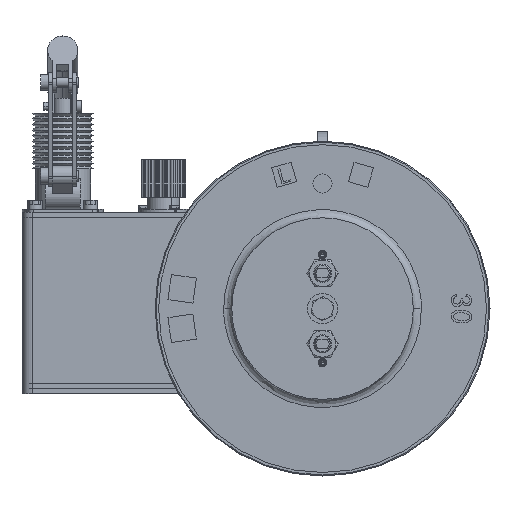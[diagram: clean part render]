
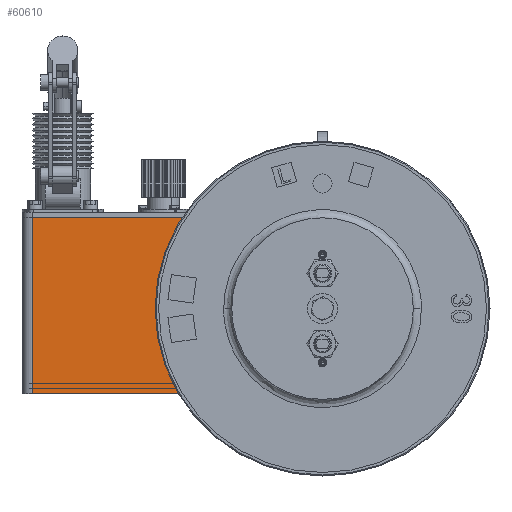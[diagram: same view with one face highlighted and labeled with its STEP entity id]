
A CAD part, left-side view. The second image highlights one B-rep face of the part: STEP entity #60610.
In plain terms, the highlighted planar face has unit normal (-1, 0, 0).
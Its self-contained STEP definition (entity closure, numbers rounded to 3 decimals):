
#1507 = EDGE_CURVE ( 'NONE', #24480, #10222, #30892, .T. ) ;
#3439 = ORIENTED_EDGE ( 'NONE', *, *, #1507, .F. ) ;
#4132 = DIRECTION ( 'NONE',  ( 0., 1., 0. ) ) ;
#8592 = ORIENTED_EDGE ( 'NONE', *, *, #83150, .T. ) ;
#9398 = CARTESIAN_POINT ( 'NONE',  ( -90., 310., 148. ) ) ;
#9759 = ORIENTED_EDGE ( 'NONE', *, *, #69935, .T. ) ;
#10222 = VERTEX_POINT ( 'NONE', #96198 ) ;
#14120 = CARTESIAN_POINT ( 'NONE',  ( -90., 150., 60.5 ) ) ;
#21177 = DIRECTION ( 'NONE',  ( 0., 0., -1. ) ) ;
#21942 = CARTESIAN_POINT ( 'NONE',  ( -90., 230., 148. ) ) ;
#24480 = VERTEX_POINT ( 'NONE', #43834 ) ;
#25530 = EDGE_LOOP ( 'NONE', ( #88544, #8592, #9759, #3439 ) ) ;
#30127 = LINE ( 'NONE', #21942, #89917 ) ;
#30632 = DIRECTION ( 'NONE',  ( 0., 1., 0. ) ) ;
#30892 = LINE ( 'NONE', #77718, #44686 ) ;
#41656 = VERTEX_POINT ( 'NONE', #48389 ) ;
#42873 = CARTESIAN_POINT ( 'NONE',  ( -90., 150., -27. ) ) ;
#43834 = CARTESIAN_POINT ( 'NONE',  ( -90., 150., -27. ) ) ;
#44686 = VECTOR ( 'NONE', #61951, 1000. ) ;
#47574 = LINE ( 'NONE', #14120, #61603 ) ;
#48389 = CARTESIAN_POINT ( 'NONE',  ( -90., 150., 148. ) ) ;
#52263 = CARTESIAN_POINT ( 'NONE',  ( -90., 310., 60.5 ) ) ;
#57995 = VERTEX_POINT ( 'NONE', #9398 ) ;
#60400 = LINE ( 'NONE', #52263, #69911 ) ;
#60610 = ADVANCED_FACE ( 'NONE', ( #74422 ), #75428, .F. ) ;
#61603 = VECTOR ( 'NONE', #76743, 1000. ) ;
#61951 = DIRECTION ( 'NONE',  ( 0., 1., 0. ) ) ;
#65997 = EDGE_CURVE ( 'NONE', #41656, #24480, #47574, .T. ) ;
#69911 = VECTOR ( 'NONE', #21177, 1000. ) ;
#69935 = EDGE_CURVE ( 'NONE', #57995, #10222, #60400, .T. ) ;
#74422 = FACE_OUTER_BOUND ( 'NONE', #25530, .T. ) ;
#75428 = PLANE ( 'NONE',  #89576 ) ;
#76743 = DIRECTION ( 'NONE',  ( 0., 0., -1. ) ) ;
#77718 = CARTESIAN_POINT ( 'NONE',  ( -90., 230., -27. ) ) ;
#83150 = EDGE_CURVE ( 'NONE', #41656, #57995, #30127, .T. ) ;
#84920 = DIRECTION ( 'NONE',  ( 1., 0., 0. ) ) ;
#88544 = ORIENTED_EDGE ( 'NONE', *, *, #65997, .F. ) ;
#89576 = AXIS2_PLACEMENT_3D ( 'NONE', #42873, #84920, #4132 ) ;
#89917 = VECTOR ( 'NONE', #30632, 1000. ) ;
#96198 = CARTESIAN_POINT ( 'NONE',  ( -90., 310., -27. ) ) ;
